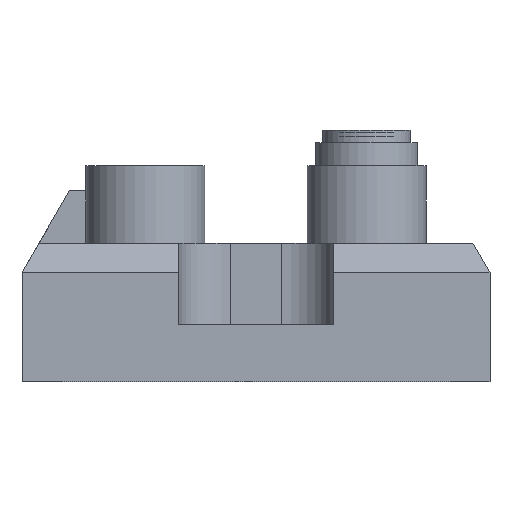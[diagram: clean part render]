
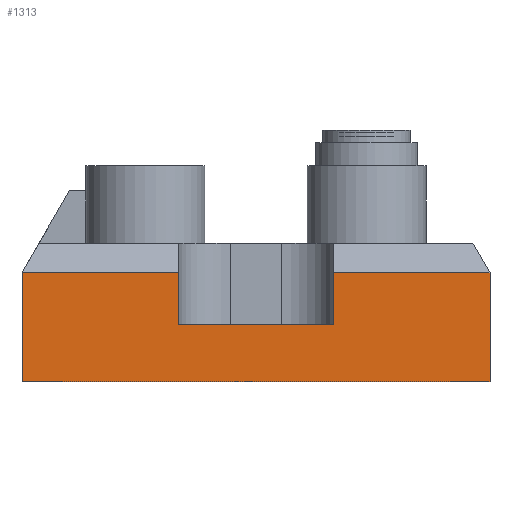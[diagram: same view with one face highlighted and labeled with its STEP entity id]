
A CAD part, front view. The second image highlights one B-rep face of the part: STEP entity #1313.
In plain terms, the highlighted planar face has unit normal (0, -1, 0).
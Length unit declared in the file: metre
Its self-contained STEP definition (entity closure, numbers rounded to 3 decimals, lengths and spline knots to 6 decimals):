
#1242=CARTESIAN_POINT($,(0.0275,-0.0705,0.008));
#1243=DIRECTION($,(0.,-1.,0.));
#1244=DIRECTION($,(0.,0.,-1.));
#1245=AXIS2_PLACEMENT_3D($,#1242,#1243,#1244);
#1246=PLANE($,#1245);
#1247=DIRECTION($,(0.,0.,1.));
#1248=CARTESIAN_POINT($,(-0.0091,-0.0705,-0.0016));
#1249=VECTOR($,#1247,0.006136);
#1250=LINE($,#1248,#1249);
#1251=CARTESIAN_POINT($,(-0.0091,-0.0705,-0.0016));
#1252=VERTEX_POINT($,#1251);
#1253=CARTESIAN_POINT($,(-0.0091,-0.0705,0.004536));
#1254=VERTEX_POINT($,#1253);
#1255=EDGE_CURVE($,#1252,#1254,#1250,.T.);
#1256=ORIENTED_EDGE($,*,*,#1255,.T.);
#1257=DIRECTION($,(-1.,0.,0.));
#1258=CARTESIAN_POINT($,(-0.0255,-0.0705,0.004536));
#1259=VECTOR($,#1257,0.0184);
#1260=LINE($,#1258,#1259);
#1261=CARTESIAN_POINT($,(-0.0275,-0.0705,0.004536));
#1262=VERTEX_POINT($,#1261);
#1263=EDGE_CURVE($,#1254,#1262,#1260,.T.);
#1264=ORIENTED_EDGE($,*,*,#1263,.T.);
#1265=DIRECTION($,(0.,0.,-1.));
#1266=CARTESIAN_POINT($,(-0.0275,-0.0705,0.008));
#1267=VECTOR($,#1265,0.012836);
#1268=LINE($,#1266,#1267);
#1269=CARTESIAN_POINT($,(-0.0275,-0.0705,-0.0083));
#1270=VERTEX_POINT($,#1269);
#1271=EDGE_CURVE($,#1262,#1270,#1268,.T.);
#1272=ORIENTED_EDGE($,*,*,#1271,.T.);
#1273=DIRECTION($,(-1.,0.,0.));
#1274=CARTESIAN_POINT($,(0.0275,-0.0705,-0.0083));
#1275=VECTOR($,#1273,0.055);
#1276=LINE($,#1274,#1275);
#1277=CARTESIAN_POINT($,(0.0275,-0.0705,-0.0083));
#1278=VERTEX_POINT($,#1277);
#1279=EDGE_CURVE($,#1278,#1270,#1276,.T.);
#1280=ORIENTED_EDGE($,*,*,#1279,.F.);
#1281=DIRECTION($,(0.,0.,-1.));
#1282=CARTESIAN_POINT($,(0.0275,-0.0705,0.008));
#1283=VECTOR($,#1281,0.012836);
#1284=LINE($,#1282,#1283);
#1285=CARTESIAN_POINT($,(0.0275,-0.0705,0.004536));
#1286=VERTEX_POINT($,#1285);
#1287=EDGE_CURVE($,#1286,#1278,#1284,.T.);
#1288=ORIENTED_EDGE($,*,*,#1287,.F.);
#1289=DIRECTION($,(-1.,0.,0.));
#1290=CARTESIAN_POINT($,(0.0091,-0.0705,0.004536));
#1291=VECTOR($,#1289,0.0184);
#1292=LINE($,#1290,#1291);
#1293=CARTESIAN_POINT($,(0.0091,-0.0705,0.004536));
#1294=VERTEX_POINT($,#1293);
#1295=EDGE_CURVE($,#1286,#1294,#1292,.T.);
#1296=ORIENTED_EDGE($,*,*,#1295,.T.);
#1297=DIRECTION($,(0.,0.,1.));
#1298=CARTESIAN_POINT($,(0.0091,-0.0705,-0.0016));
#1299=VECTOR($,#1297,0.006136);
#1300=LINE($,#1298,#1299);
#1301=CARTESIAN_POINT($,(0.0091,-0.0705,-0.0016));
#1302=VERTEX_POINT($,#1301);
#1303=EDGE_CURVE($,#1302,#1294,#1300,.T.);
#1304=ORIENTED_EDGE($,*,*,#1303,.F.);
#1305=DIRECTION($,(1.,0.,0.));
#1306=CARTESIAN_POINT($,(-0.0091,-0.0705,-0.0016));
#1307=VECTOR($,#1305,0.0182);
#1308=LINE($,#1306,#1307);
#1309=EDGE_CURVE($,#1252,#1302,#1308,.T.);
#1310=ORIENTED_EDGE($,*,*,#1309,.F.);
#1311=EDGE_LOOP($,(#1256,#1264,#1272,#1280,#1288,#1296,#1304,#1310));
#1312=FACE_OUTER_BOUND($,#1311,.T.);
#1313=ADVANCED_FACE($,(#1312),#1246,.T.);
